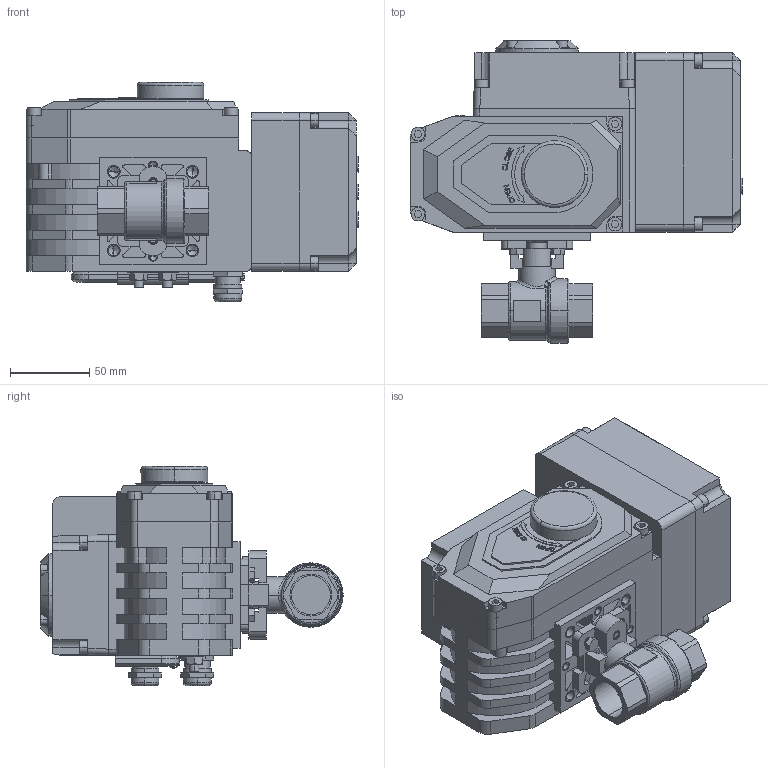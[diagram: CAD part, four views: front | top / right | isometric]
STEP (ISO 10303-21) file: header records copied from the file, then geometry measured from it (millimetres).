
FILE_DESCRIPTION((''),'2;1');
FILE_NAME('BV-21F_EAR_A_ASM','2025-03-02T',('AMD'),(''),'PRO/ENGINEER BY PARAMETRIC TECHNOLOGY CORPORATION, 2008020','PRO/ENGINEER BY PARAMETRIC TECHNOLOGY CORPORATION, 2008020','');
FILE_SCHEMA(('CONFIG_CONTROL_DESIGN'));
Length unit declared in the file: millimetre
Products named in the file (19): KORPUS_KRANA; SHAIBA_KRANA; VINT_KRANA; SB_KRAN_ASM; DET_1; V-11738-M5; V-11738-M4; DET_2; KREPLENIE; KLUCH; DET_3; G-5915-M6; ELECTROPRIVOD_ASM; DET_4; DET_5; DISPLAY_ASM; ELECTROPRIVOD_WITH_DISPLAY_ASM; BOLT; BV-21F_EAR_A_ASM
Assembly tree (37 placements, depth 4):
  BV-21F_EAR_A_ASM
    SB_KRAN_ASM
      KORPUS_KRANA
      SHAIBA_KRANA
      VINT_KRANA  x2
    ELECTROPRIVOD_WITH_DISPLAY_ASM
      ELECTROPRIVOD_ASM
        DET_1
        V-11738-M5  x8
        V-11738-M4  x4
        DET_2
        KREPLENIE
        KLUCH
        DET_3
        G-5915-M6  x2
      DISPLAY_ASM
        DET_4
        DET_5
        V-11738-M5  x4
    BOLT  x4
Bounding box: 209 x 190.25 x 138 mm (x, y, z)
Volume: 2148864.5 mm3; surface area: 257652 mm2
Topology: 33 solids, 75 shells, 2402 faces, 6399 edges, 4224 vertices
Faces by surface type: plane 1619, cylinder 380, extrusion 300, cone 79, torus 12, bspline 10, sphere 2
Entity records: 67267 total; most frequent: CARTESIAN_POINT 14741, ORIENTED_EDGE 11194, DIRECTION 9723, EDGE_CURVE 5645, VECTOR 4595, LINE 4295, VERTEX_POINT 3736, AXIS2_PLACEMENT_3D 2564
